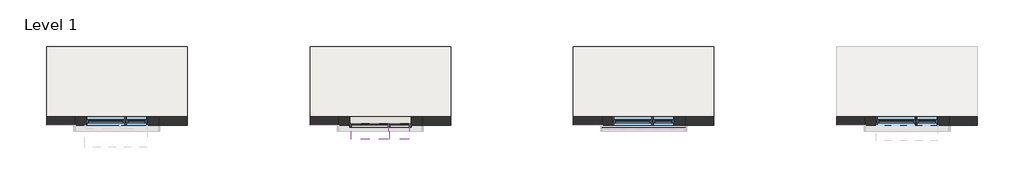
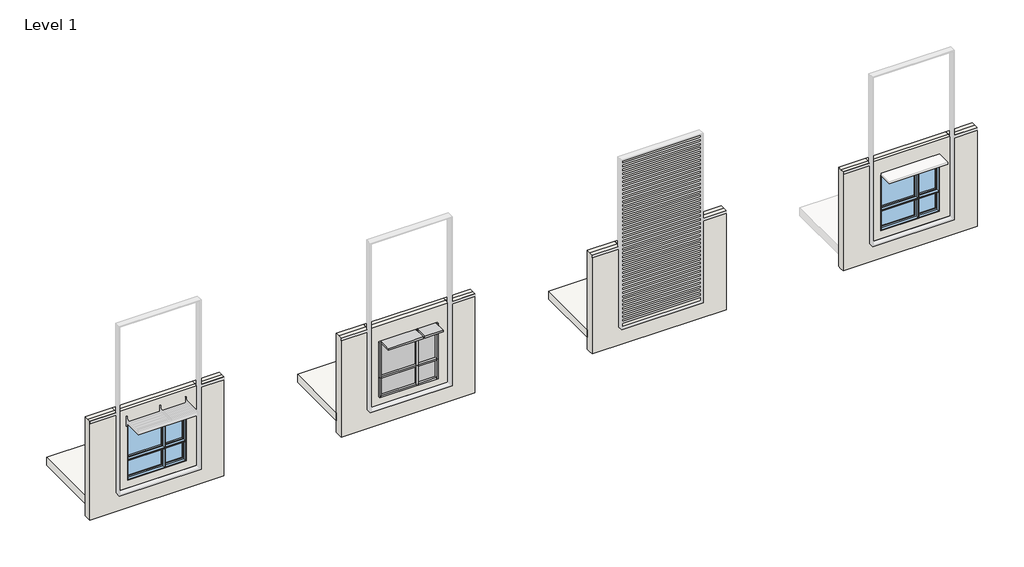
# One storey, part 1 of 2: 12 members, 12 windows, 9 walls, 4 plates, 3 slabs.
"""IFC4 building model written with IfcOpenShell, lengths in millimetres."""

from ifc_helpers import new_model, si_unit, origin, origin_with_axes, place, context, project, spatial, polyline, outline, extrude, faceted_brep, transform, mapped, element, save
from components import member_cba00588, member_61742b2b, member_58fbc06e, member_2ee2964b, member_c33c434a, member_824a4a8d, member_c6627131, member_aa870034, rectangular_mullion_shade_037705a8, rectangular_mullion_shade_51ff6f6d, system_panel_glazed_02edb99e, system_panel_glazed_afa25fb8, system_panel_glazed_763bfc57, system_panel_glazed_5b4b0124, plank_window_awning_4626_d54cf950, plank_window_casement_2646_fc72efb1, plank_window_fixed_2626_f09a5b78, plank_window_fixed_4646_613d52dc

model = new_model("IFC4")

# Units and contexts
model_context = context("Model", 3, world=origin())
ifc_project = project(units=[si_unit("LENGTHUNIT", "METRE", prefix="MILLI")], contexts=[model_context])

# Site, building, storey
site = spatial("IfcSite", under=ifc_project)
building = spatial("IfcBuilding", under=site)
storey = spatial("IfcBuildingStorey", under=building, Name="Level 1", Elevation=0.0)

# Members
placement = place(None, origin())
member_shape = member_cba00588(model_context)
element("IfcMember", 1, ObjectType="Rectangular Mullion : 2.5\" x 5\" rectangular", at=placement, inside=storey, context=model_context, shape_type="MappedRepresentation", body=[
    mapped(member_shape, transform((-19150.1064955, 2683.5864771, 304.8), x_axis=(0.0, 0.0, -1.0), y_axis=(0.0, -1.0, 0.0), z_axis=(-1.0, 0.0, 0.0))),
])
member_2_shape = member_61742b2b(model_context)
element("IfcMember", 2, ObjectType="Rectangular Mullion : 2.5\" x 5\" rectangular", at=placement, inside=storey, context=model_context, shape_type="MappedRepresentation", body=[
    mapped(member_2_shape, transform((-17842.0064955, 2683.5864771, 304.8), x_axis=(1.0, 0.0, 0.0), y_axis=(0.0, -1.0, 0.0), z_axis=(0.0, 0.0, -1.0))),
])
member_3_shape = member_58fbc06e(model_context)
element("IfcMember", 3, ObjectType="Rectangular Mullion : 2.5\" x 5\" rectangular", at=placement, inside=storey, context=model_context, shape_type="MappedRepresentation", body=[
    mapped(member_3_shape, transform((-17873.7564955, 2683.5864771, 1066.8), x_axis=(0.0, 0.0, 1.0), y_axis=(0.0, -1.0, 0.0), z_axis=(1.0, 0.0, 0.0))),
])
member_4_shape = member_2ee2964b(model_context)
element("IfcMember", 4, ObjectType="Rectangular Mullion : 2.5\" x 5\" rectangular", at=placement, inside=storey, context=model_context, shape_type="MappedRepresentation", body=[
    mapped(member_4_shape, transform((-17143.5064955, 2683.5864771, 1066.8), x_axis=(0.0, 0.0, 1.0), y_axis=(0.0, -1.0, 0.0), z_axis=(1.0, 0.0, 0.0))),
])
member_5_shape = member_c33c434a(model_context)
element("IfcMember", 5, ObjectType="Rectangular Mullion : 2.5\" x 5\" rectangular", at=placement, inside=storey, context=model_context, shape_type="MappedRepresentation", body=[
    mapped(member_5_shape, transform((-17810.2564955, 2683.5864771, 304.8), x_axis=(0.0, 0.0, -1.0), y_axis=(0.0, -1.0, 0.0), z_axis=(-1.0, 0.0, 0.0))),
])
member_6_shape = member_824a4a8d(model_context)
element("IfcMember", 6, ObjectType="Rectangular Mullion : 2.5\" x 5\" rectangular", at=placement, inside=storey, context=model_context, shape_type="MappedRepresentation", body=[
    mapped(member_6_shape, transform((-17842.0064955, 2683.5864771, 1066.8), x_axis=(1.0, 0.0, 0.0), y_axis=(0.0, -1.0, 0.0), z_axis=(0.0, 0.0, -1.0))),
])
member_7_shape = member_c6627131(model_context)
element("IfcMember", 7, ObjectType="Rectangular Mullion : 2.5\" x 5\" rectangular", at=placement, inside=storey, context=model_context, shape_type="MappedRepresentation", body=[
    mapped(member_7_shape, transform((-19213.6064955, 2683.5864771, 2438.4), x_axis=(-1.0, 0.0, 0.0), y_axis=(0.0, -1.0, 0.0), z_axis=(0.0, 0.0, 1.0))),
])
member_8_shape = member_aa870034(model_context)
element("IfcMember", 8, ObjectType="Rectangular Mullion : 2.5\" x 5\" rectangular", at=placement, inside=storey, context=model_context, shape_type="MappedRepresentation", body=[
    mapped(member_8_shape, transform((-17080.0064955, 2683.5864771, 304.8), x_axis=(1.0, 0.0, 0.0), y_axis=(0.0, -1.0, 0.0), z_axis=(0.0, 0.0, -1.0))),
])
element("IfcMember", 9, ObjectType="Rectangular Mullion : 2.5\" x 5\" rectangular", at=placement, inside=storey, context=model_context, shape_type="MappedRepresentation", body=[
    mapped(member_7_shape, transform((-17080.0064955, 2683.5864771, 1066.8), x_axis=(1.0, 0.0, 0.0), y_axis=(0.0, -1.0, 0.0), z_axis=(0.0, 0.0, -1.0))),
])
element("IfcMember", 10, ObjectType="Rectangular Mullion : 2.5\" x 5\" rectangular", at=placement, inside=storey, context=model_context, shape_type="MappedRepresentation", body=[
    mapped(member_8_shape, transform((-19213.6064955, 2683.5864771, 1066.8), x_axis=(-1.0, 0.0, 0.0), y_axis=(0.0, -1.0, 0.0), z_axis=(0.0, 0.0, 1.0))),
])
rectangular_mullion_shade_shape = rectangular_mullion_shade_037705a8(model_context)
element("IfcMember", 11, ObjectType="Rectangular Mullion : Shade", at=placement, inside=storey, context=model_context, shape_type="MappedRepresentation", body=[
    mapped(rectangular_mullion_shade_shape, transform((-17873.7564955, 2683.5864771, 2438.4), x_axis=(0.0, 0.0, 1.0), y_axis=(0.0, -1.0, 0.0), z_axis=(1.0, 0.0, 0.0))),
])
rectangular_mullion_shade_2_shape = rectangular_mullion_shade_51ff6f6d(model_context)
element("IfcMember", 12, ObjectType="Rectangular Mullion : Shade", at=placement, inside=storey, context=model_context, shape_type="MappedRepresentation", body=[
    mapped(rectangular_mullion_shade_2_shape, transform((-17143.5064955, 2683.5864771, 2438.4), x_axis=(0.0, 0.0, 1.0), y_axis=(0.0, -1.0, 0.0), z_axis=(1.0, 0.0, 0.0))),
])

# Plates
system_panel_glazed_shape = system_panel_glazed_02edb99e(model_context)
element("IfcPlate", 13, ObjectType="System Panel : Glazed", at=placement, inside=storey, context=model_context, shape_type="MappedRepresentation", body=[
    mapped(system_panel_glazed_shape, transform((-18511.9314955, 2683.5864771, 368.3), x_axis=(1.0, 0.0, 0.0), y_axis=(0.0, 1.0, 0.0), z_axis=(0.0, 0.0, 1.0))),
])
system_panel_glazed_2_shape = system_panel_glazed_afa25fb8(model_context)
element("IfcPlate", 14, ObjectType="System Panel : Glazed", at=placement, inside=storey, context=model_context, shape_type="MappedRepresentation", body=[
    mapped(system_panel_glazed_2_shape, transform((-17476.8814955, 2683.5864771, 368.3), x_axis=(1.0, 0.0, 0.0), y_axis=(0.0, 1.0, 0.0), z_axis=(0.0, 0.0, 1.0))),
])
system_panel_glazed_3_shape = system_panel_glazed_763bfc57(model_context)
element("IfcPlate", 15, ObjectType="System Panel : Glazed", at=placement, inside=storey, context=model_context, shape_type="MappedRepresentation", body=[
    mapped(system_panel_glazed_3_shape, transform((-17476.8814955, 2683.5864771, 1098.55), x_axis=(1.0, 0.0, 0.0), y_axis=(0.0, 1.0, 0.0), z_axis=(0.0, 0.0, 1.0))),
])
system_panel_glazed_4_shape = system_panel_glazed_5b4b0124(model_context)
element("IfcPlate", 16, ObjectType="System Panel : Glazed", at=placement, inside=storey, context=model_context, shape_type="MappedRepresentation", body=[
    mapped(system_panel_glazed_4_shape, transform((-18511.9314955, 2683.5864771, 1098.55), x_axis=(1.0, 0.0, 0.0), y_axis=(0.0, 1.0, 0.0), z_axis=(0.0, 0.0, 1.0))),
])

# Slabs
element("IfcSlab", 17, ObjectType="Generic - 12\"", at=placement, inside=storey, context=model_context, shape_type="Brep", body=[
    faceted_brep([(-6564.4064955, 2980.4489771, -304.8), (-11441.2064955, 2980.4489771, -304.8), (-11441.2064955, 5418.8489771, -304.8), (-6564.4064955, 5418.8489771, -304.8), (-6564.4064955, 2980.4489771, 0.0), (-6564.4064955, 5418.8489771, 0.0), (-11441.2064955, 5418.8489771, 0.0), (-11441.2064955, 2980.4489771, 0.0), (-10450.6064955, 2980.4489771, 0.0), (-7542.3064955, 2980.4489771, 0.0)], [[[0, 1, 2, 3]], [[4, 5, 6, 7, 8, 9]], [[1, 0, 4, 9, 8, 7]], [[2, 1, 7, 6]], [[3, 2, 6, 5]], [[0, 3, 5, 4]]]),
])
element("IfcSlab", 18, ObjectType="Generic - 12\"", at=placement, inside=storey, context=model_context, shape_type="Brep", body=[
    faceted_brep([(-15708.4064955, 2980.4489771, -304.8), (-20585.2064955, 2980.4489771, -304.8), (-20585.2064955, 5418.8489771, -304.8), (-15708.4064955, 5418.8489771, -304.8), (-15708.4064955, 2980.4489771, 0.0), (-15708.4064955, 5418.8489771, 0.0), (-20585.2064955, 5418.8489771, 0.0), (-20585.2064955, 2980.4489771, 0.0), (-19594.6064955, 2980.4489771, 0.0), (-16686.3064955, 2980.4489771, 0.0)], [[[0, 1, 2, 3]], [[4, 5, 6, 7, 8, 9]], [[1, 0, 4, 9, 8, 7]], [[2, 1, 7, 6]], [[3, 2, 6, 5]], [[0, 3, 5, 4]]]),
])
element("IfcSlab", 19, ObjectType="Generic - 12\"", at=placement, inside=storey, context=model_context, shape_type="Brep", body=[
    faceted_brep([(-24852.4064955, 2980.4489771, -304.8), (-29729.2064955, 2980.4489771, -304.8), (-29729.2064955, 5418.8489771, -304.8), (-24852.4064955, 5418.8489771, -304.8), (-24852.4064955, 2980.4489771, 0.0), (-24852.4064955, 5418.8489771, 0.0), (-29729.2064955, 5418.8489771, 0.0), (-29729.2064955, 2980.4489771, 0.0), (-28738.6064955, 2980.4489771, 0.0), (-25830.3064955, 2980.4489771, 0.0)], [[[0, 1, 2, 3]], [[4, 5, 6, 7, 8, 9]], [[1, 0, 4, 9, 8, 7]], [[2, 1, 7, 6]], [[3, 2, 6, 5]], [[0, 3, 5, 4]]]),
])

# Walls
element("IfcWall", 20, ObjectType="EXT-SIDE.STUD-5.5\" 4\" RIGID - METAL Horizontal", at=placement, inside=storey, context=model_context, shape_type="Brep", body=[
    faceted_brep([(1601.6935045, 2683.5864771, 0.0), (1601.6935045, 2683.5864771, 3048.0), (-1306.6064955, 2683.5864771, 3048.0), (-1306.6064955, 2683.5864771, 0.0), (-925.6064955, 2683.5864771, 304.8), (-925.6064955, 2683.5864771, 2438.4), (1207.9935045, 2683.5864771, 2438.4), (1207.9935045, 2683.5864771, 304.8), (1601.6935045, 2980.4489771, 0.0), (-1306.6064955, 2980.4489771, 0.0), (-1306.6064955, 2980.4489771, 3048.0), (1601.6935045, 2980.4489771, 3048.0), (1207.9935045, 2980.4489771, 304.8), (1207.9935045, 2980.4489771, 2438.4), (-925.6064955, 2980.4489771, 2438.4), (-925.6064955, 2980.4489771, 304.8), (1601.6935045, 2828.0489771, 0.0), (1601.6935045, 2828.0489771, 3048.0), (-1306.6064955, 2828.0489771, 3048.0), (-1306.6064955, 2828.0489771, 0.0)], [[[0, 1, 2, 3], [4, 5, 6, 7]], [[8, 9, 10, 11], [12, 13, 14, 15]], [[1, 0, 16, 8, 11, 17]], [[3, 2, 18, 10, 9, 19]], [[9, 8, 16, 19]], [[11, 10, 18, 17]], [[2, 1, 17, 18]], [[0, 3, 19, 16]], [[7, 12, 15, 4]], [[12, 7, 6, 13]], [[13, 6, 5, 14]], [[4, 15, 14, 5]]]),
])
element("IfcWall", 21, ObjectType="EXT-SIDE.STUD-5.5\" 4\" RIGID - DRYVIT", at=placement, inside=storey, context=model_context, shape_type="Brep", body=[
    faceted_brep([(2579.5935045, 2683.5864771, -762.0), (2579.5935045, 2683.5864771, 3048.0), (1601.6935045, 2683.5864771, 3048.0), (1601.6935045, 2683.5864771, 0.0), (-1306.6064955, 2683.5864771, 0.0), (-1306.6064955, 2683.5864771, 3048.0), (-2297.2064955, 2683.5864771, 3048.0), (-2297.2064955, 2683.5864771, -762.0), (2579.5935045, 2980.4489771, -762.0), (-2297.2064955, 2980.4489771, -762.0), (-2297.2064955, 2980.4489771, -304.8), (-2297.2064955, 2980.4489771, 0.0), (-2297.2064955, 2980.4489771, 3048.0), (-1306.6064955, 2980.4489771, 3048.0), (-1306.6064955, 2980.4489771, 0.0), (1601.6935045, 2980.4489771, 0.0), (1601.6935045, 2980.4489771, 3048.0), (2579.5935045, 2980.4489771, 3048.0), (2579.5935045, 2980.4489771, 0.0), (2579.5935045, 2980.4489771, -304.8), (2579.5935045, 2828.0489771, 3048.0), (1601.6935045, 2828.0489771, 3048.0), (-2297.2064955, 2828.0489771, -762.0), (2579.5935045, 2828.0489771, -762.0), (-2297.2064955, 2828.0489771, 3048.0), (1601.6935045, 2828.0489771, 0.0), (-1306.6064955, 2828.0489771, 0.0), (-1306.6064955, 2828.0489771, 3048.0)], [[[0, 1, 2, 3, 4, 5, 6, 7]], [[8, 9, 10, 11, 12, 13, 14, 15, 16, 17, 18, 19]], [[2, 1, 20, 21]], [[0, 7, 22, 23]], [[1, 0, 23, 8, 19, 18, 17, 20]], [[7, 6, 24, 12, 11, 10, 9, 22]], [[17, 16, 21, 20]], [[9, 8, 23, 22]], [[3, 2, 21, 16, 15, 25]], [[5, 4, 26, 14, 13, 27]], [[15, 14, 26, 25]], [[4, 3, 25, 26]], [[13, 12, 24, 27]], [[6, 5, 27, 24]]]),
])
element("IfcWall", 22, ObjectType="EXT-SIDE.STUD-5.5\" 4\" RIGID - METAL Horizontal", at=placement, inside=storey, context=model_context, shape_type="Brep", body=[
    faceted_brep([(-7542.3064955, 2683.5864771, 0.0), (-7542.3064955, 2683.5864771, 3048.0), (-10450.6064955, 2683.5864771, 3048.0), (-10450.6064955, 2683.5864771, 0.0), (-10069.6064955, 2683.5864771, 304.8), (-10069.6064955, 2683.5864771, 2438.4), (-7936.0064955, 2683.5864771, 2438.4), (-7936.0064955, 2683.5864771, 304.8), (-7542.3064955, 2980.4489771, 0.0), (-10450.6064955, 2980.4489771, 0.0), (-10450.6064955, 2980.4489771, 3048.0), (-7542.3064955, 2980.4489771, 3048.0), (-7936.0064955, 2980.4489771, 304.8), (-7936.0064955, 2980.4489771, 2438.4), (-10069.6064955, 2980.4489771, 2438.4), (-10069.6064955, 2980.4489771, 304.8), (-7542.3064955, 2828.0489771, 0.0), (-7542.3064955, 2828.0489771, 3048.0), (-10450.6064955, 2828.0489771, 3048.0), (-10450.6064955, 2828.0489771, 0.0)], [[[0, 1, 2, 3], [4, 5, 6, 7]], [[8, 9, 10, 11], [12, 13, 14, 15]], [[1, 0, 16, 8, 11, 17]], [[3, 2, 18, 10, 9, 19]], [[9, 8, 16, 19]], [[11, 10, 18, 17]], [[2, 1, 17, 18]], [[0, 3, 19, 16]], [[7, 12, 15, 4]], [[12, 7, 6, 13]], [[13, 6, 5, 14]], [[4, 15, 14, 5]]]),
])
element("IfcWall", 23, ObjectType="EXT-SIDE.STUD-5.5\" 4\" RIGID - DRYVIT", at=placement, inside=storey, context=model_context, shape_type="Brep", body=[
    faceted_brep([(-6564.4064955, 2683.5864771, -762.0), (-6564.4064955, 2683.5864771, 3048.0), (-7542.3064955, 2683.5864771, 3048.0), (-7542.3064955, 2683.5864771, 0.0), (-10450.6064955, 2683.5864771, 0.0), (-10450.6064955, 2683.5864771, 3048.0), (-11441.2064955, 2683.5864771, 3048.0), (-11441.2064955, 2683.5864771, -762.0), (-6564.4064955, 2980.4489771, -762.0), (-11441.2064955, 2980.4489771, -762.0), (-11441.2064955, 2980.4489771, -304.8), (-11441.2064955, 2980.4489771, 0.0), (-11441.2064955, 2980.4489771, 3048.0), (-10450.6064955, 2980.4489771, 3048.0), (-10450.6064955, 2980.4489771, 0.0), (-7542.3064955, 2980.4489771, 0.0), (-7542.3064955, 2980.4489771, 3048.0), (-6564.4064955, 2980.4489771, 3048.0), (-6564.4064955, 2980.4489771, 0.0), (-6564.4064955, 2980.4489771, -304.8), (-6564.4064955, 2828.0489771, 3048.0), (-7542.3064955, 2828.0489771, 3048.0), (-11441.2064955, 2828.0489771, -762.0), (-6564.4064955, 2828.0489771, -762.0), (-11441.2064955, 2828.0489771, 3048.0), (-7542.3064955, 2828.0489771, 0.0), (-10450.6064955, 2828.0489771, 0.0), (-10450.6064955, 2828.0489771, 3048.0)], [[[0, 1, 2, 3, 4, 5, 6, 7]], [[8, 9, 10, 11, 12, 13, 14, 15, 16, 17, 18, 19]], [[2, 1, 20, 21]], [[0, 7, 22, 23]], [[1, 0, 23, 8, 19, 18, 17, 20]], [[7, 6, 24, 12, 11, 10, 9, 22]], [[17, 16, 21, 20]], [[9, 8, 23, 22]], [[3, 2, 21, 16, 15, 25]], [[5, 4, 26, 14, 13, 27]], [[15, 14, 26, 25]], [[4, 3, 25, 26]], [[13, 12, 24, 27]], [[6, 5, 27, 24]]]),
])
element("IfcWall", 24, ObjectType="EXT-SIDE.STUD-5.5\" 4\" RIGID - METAL Horizontal", at=placement, inside=storey, context=model_context, shape_type="Brep", body=[
    faceted_brep([(-19594.6064955, 2683.5864771, 0.0), (-16686.3064955, 2683.5864771, 0.0), (-16686.3064955, 2683.5864771, 3048.0), (-19594.6064955, 2683.5864771, 3048.0), (-17080.0064955, 2683.5864771, 2438.4), (-17080.0064955, 2683.5864771, 304.8), (-19213.6064955, 2683.5864771, 304.8), (-19213.6064955, 2683.5864771, 2438.4), (-19594.6064955, 2980.4489771, 0.0), (-19594.6064955, 2980.4489771, 3048.0), (-16686.3064955, 2980.4489771, 3048.0), (-16686.3064955, 2980.4489771, 0.0), (-17080.0064955, 2980.4489771, 2438.4), (-19213.6064955, 2980.4489771, 2438.4), (-19213.6064955, 2980.4489771, 304.8), (-17080.0064955, 2980.4489771, 304.8), (-16686.3064955, 2828.0489771, 3048.0), (-19594.6064955, 2828.0489771, 3048.0), (-19594.6064955, 2828.0489771, 0.0), (-16686.3064955, 2828.0489771, 0.0)], [[[0, 1, 2, 3], [4, 5, 6, 7]], [[8, 9, 10, 11], [12, 13, 14, 15]], [[3, 2, 16, 17]], [[1, 0, 18, 19]], [[2, 1, 19, 11, 10, 16]], [[0, 3, 17, 9, 8, 18]], [[16, 10, 9, 17]], [[18, 8, 11, 19]], [[5, 4, 12, 15]], [[6, 5, 15, 14]], [[7, 6, 14, 13]], [[4, 7, 13, 12]]]),
])
element("IfcWall", 25, ObjectType="EXT-SIDE.STUD-5.5\" 4\" RIGID - DRYVIT", at=placement, inside=storey, context=model_context, shape_type="Brep", body=[
    faceted_brep([(-15708.4064955, 2683.5864771, -762.0), (-15708.4064955, 2683.5864771, 3048.0), (-16686.3064955, 2683.5864771, 3048.0), (-16686.3064955, 2683.5864771, 0.0), (-19594.6064955, 2683.5864771, 0.0), (-19594.6064955, 2683.5864771, 3048.0), (-20585.2064955, 2683.5864771, 3048.0), (-20585.2064955, 2683.5864771, -762.0), (-15708.4064955, 2980.4489771, -762.0), (-20585.2064955, 2980.4489771, -762.0), (-20585.2064955, 2980.4489771, -304.8), (-20585.2064955, 2980.4489771, 0.0), (-20585.2064955, 2980.4489771, 3048.0), (-19594.6064955, 2980.4489771, 3048.0), (-19594.6064955, 2980.4489771, 0.0), (-16686.3064955, 2980.4489771, 0.0), (-16686.3064955, 2980.4489771, 3048.0), (-15708.4064955, 2980.4489771, 3048.0), (-15708.4064955, 2980.4489771, 0.0), (-15708.4064955, 2980.4489771, -304.8), (-15708.4064955, 2828.0489771, 3048.0), (-16686.3064955, 2828.0489771, 3048.0), (-20585.2064955, 2828.0489771, -762.0), (-15708.4064955, 2828.0489771, -762.0), (-20585.2064955, 2828.0489771, 3048.0), (-16686.3064955, 2828.0489771, 0.0), (-19594.6064955, 2828.0489771, 0.0), (-19594.6064955, 2828.0489771, 3048.0)], [[[0, 1, 2, 3, 4, 5, 6, 7]], [[8, 9, 10, 11, 12, 13, 14, 15, 16, 17, 18, 19]], [[2, 1, 20, 21]], [[0, 7, 22, 23]], [[1, 0, 23, 8, 19, 18, 17, 20]], [[7, 6, 24, 12, 11, 10, 9, 22]], [[17, 16, 21, 20]], [[9, 8, 23, 22]], [[3, 2, 21, 16, 15, 25]], [[5, 4, 26, 14, 13, 27]], [[15, 14, 26, 25]], [[4, 3, 25, 26]], [[13, 12, 24, 27]], [[6, 5, 27, 24]]]),
])
element("IfcWall", 26, ObjectType="EXT-SIDE.STUD-5.5\" 4\" RIGID - METAL Horizontal", at=placement, inside=storey, context=model_context, shape_type="Brep", body=[
    faceted_brep([(-25830.3064955, 2683.5864771, 0.0), (-25830.3064955, 2683.5864771, 3048.0), (-28738.6064955, 2683.5864771, 3048.0), (-28738.6064955, 2683.5864771, 0.0), (-28357.6064955, 2683.5864771, 304.8), (-28357.6064955, 2683.5864771, 2438.4), (-26224.0064955, 2683.5864771, 2438.4), (-26224.0064955, 2683.5864771, 304.8), (-25830.3064955, 2980.4489771, 0.0), (-28738.6064955, 2980.4489771, 0.0), (-28738.6064955, 2980.4489771, 3048.0), (-25830.3064955, 2980.4489771, 3048.0), (-26224.0064955, 2980.4489771, 304.8), (-26224.0064955, 2980.4489771, 2438.4), (-28357.6064955, 2980.4489771, 2438.4), (-28357.6064955, 2980.4489771, 304.8), (-25830.3064955, 2828.0489771, 0.0), (-25830.3064955, 2828.0489771, 3048.0), (-28738.6064955, 2828.0489771, 3048.0), (-28738.6064955, 2828.0489771, 0.0)], [[[0, 1, 2, 3], [4, 5, 6, 7]], [[8, 9, 10, 11], [12, 13, 14, 15]], [[1, 0, 16, 8, 11, 17]], [[3, 2, 18, 10, 9, 19]], [[9, 8, 16, 19]], [[11, 10, 18, 17]], [[2, 1, 17, 18]], [[0, 3, 19, 16]], [[7, 12, 15, 4]], [[12, 7, 6, 13]], [[13, 6, 5, 14]], [[4, 15, 14, 5]]]),
])
element("IfcWall", 27, ObjectType="EXT-SIDE.STUD-5.5\" 4\" RIGID - DRYVIT", at=placement, inside=storey, context=model_context, shape_type="Brep", body=[
    faceted_brep([(-24852.4064955, 2683.5864771, -762.0), (-24852.4064955, 2683.5864771, 3048.0), (-25830.3064955, 2683.5864771, 3048.0), (-25830.3064955, 2683.5864771, 0.0), (-28738.6064955, 2683.5864771, 0.0), (-28738.6064955, 2683.5864771, 3048.0), (-29729.2064955, 2683.5864771, 3048.0), (-29729.2064955, 2683.5864771, -762.0), (-24852.4064955, 2980.4489771, -762.0), (-29729.2064955, 2980.4489771, -762.0), (-29729.2064955, 2980.4489771, -304.8), (-29729.2064955, 2980.4489771, 0.0), (-29729.2064955, 2980.4489771, 3048.0), (-28738.6064955, 2980.4489771, 3048.0), (-28738.6064955, 2980.4489771, 0.0), (-25830.3064955, 2980.4489771, 0.0), (-25830.3064955, 2980.4489771, 3048.0), (-24852.4064955, 2980.4489771, 3048.0), (-24852.4064955, 2980.4489771, 0.0), (-24852.4064955, 2980.4489771, -304.8), (-24852.4064955, 2828.0489771, 3048.0), (-25830.3064955, 2828.0489771, 3048.0), (-29729.2064955, 2828.0489771, -762.0), (-24852.4064955, 2828.0489771, -762.0), (-29729.2064955, 2828.0489771, 3048.0), (-25830.3064955, 2828.0489771, 0.0), (-28738.6064955, 2828.0489771, 0.0), (-28738.6064955, 2828.0489771, 3048.0)], [[[0, 1, 2, 3, 4, 5, 6, 7]], [[8, 9, 10, 11, 12, 13, 14, 15, 16, 17, 18, 19]], [[2, 1, 20, 21]], [[0, 7, 22, 23]], [[1, 0, 23, 8, 19, 18, 17, 20]], [[7, 6, 24, 12, 11, 10, 9, 22]], [[17, 16, 21, 20]], [[9, 8, 23, 22]], [[3, 2, 21, 16, 15, 25]], [[5, 4, 26, 14, 13, 27]], [[15, 14, 26, 25]], [[4, 3, 25, 26]], [[13, 12, 24, 27]], [[6, 5, 27, 24]]]),
])
element("IfcWall", 28, ObjectType="Generic - 1\"", at=placement, inside=storey, context=model_context, shape_type="SweptSolid", body=[
    extrude(outline(polyline([(-7555.0064955, 2575.6364771), (-10450.6064955, 2575.6364771), (-10450.6064955, 2601.0364771), (-7555.0064955, 2601.0364771), (-7555.0064955, 2575.6364771)])), origin_with_axes(), (0.0, 0.0, 1.0), 6445.25),
])

# Windows
plank_window_awning_4626_shape = plank_window_awning_4626_d54cf950(model_context)
element("IfcWindow", 29, ObjectType="Plank Window : Awning 4626", at=placement, inside=storey, context=model_context, shape_type="MappedRepresentation", body=[
    mapped(plank_window_awning_4626_shape, transform((-239.8064955, 2832.0177271, -609.6), x_axis=(-1.0, 0.0, 0.0), y_axis=(0.0, -1.0, 0.0), z_axis=(0.0, 0.0, 1.0))),
])
element("IfcWindow", 30, ObjectType="Plank Window : Awning 4626", at=placement, inside=storey, context=model_context, shape_type="MappedRepresentation", body=[
    mapped(plank_window_awning_4626_shape, transform((-9383.8064955, 2832.0177271, -609.6), x_axis=(-1.0, 0.0, 0.0), y_axis=(0.0, -1.0, 0.0), z_axis=(0.0, 0.0, 1.0))),
])
element("IfcWindow", 31, ObjectType="Plank Window : Awning 4626", at=placement, inside=storey, context=model_context, shape_type="MappedRepresentation", body=[
    mapped(plank_window_awning_4626_shape, transform((-27671.8064955, 2832.0177271, -609.6), x_axis=(-1.0, 0.0, 0.0), y_axis=(0.0, -1.0, 0.0), z_axis=(0.0, 0.0, 1.0))),
])
plank_window_casement_2646_shape = plank_window_casement_2646_fc72efb1(model_context)
element("IfcWindow", 32, ObjectType="Plank Window : Casement 2646", at=placement, inside=storey, context=model_context, shape_type="MappedRepresentation", body=[
    mapped(plank_window_casement_2646_shape, transform((826.9935045, 2832.0177271, 152.4), x_axis=(-1.0, 0.0, 0.0), y_axis=(0.0, -1.0, 0.0), z_axis=(0.0, 0.0, 1.0))),
])
element("IfcWindow", 33, ObjectType="Plank Window : Casement 2646", at=placement, inside=storey, context=model_context, shape_type="MappedRepresentation", body=[
    mapped(plank_window_casement_2646_shape, transform((-8317.0064955, 2832.0177271, 152.4), x_axis=(-1.0, 0.0, 0.0), y_axis=(0.0, -1.0, 0.0), z_axis=(0.0, 0.0, 1.0))),
])
element("IfcWindow", 34, ObjectType="Plank Window : Casement 2646", at=placement, inside=storey, context=model_context, shape_type="MappedRepresentation", body=[
    mapped(plank_window_casement_2646_shape, transform((-26605.0064955, 2832.0177271, 152.4), x_axis=(-1.0, 0.0, 0.0), y_axis=(0.0, -1.0, 0.0), z_axis=(0.0, 0.0, 1.0))),
])
plank_window_fixed_2626_shape = plank_window_fixed_2626_f09a5b78(model_context)
element("IfcWindow", 35, ObjectType="Plank Window : Fixed 2626", at=placement, inside=storey, context=model_context, shape_type="MappedRepresentation", body=[
    mapped(plank_window_fixed_2626_shape, transform((826.9935045, 2832.0177271, -609.6), x_axis=(-1.0, 0.0, 0.0), y_axis=(0.0, -1.0, 0.0), z_axis=(0.0, 0.0, 1.0))),
])
element("IfcWindow", 36, ObjectType="Plank Window : Fixed 2626", at=placement, inside=storey, context=model_context, shape_type="MappedRepresentation", body=[
    mapped(plank_window_fixed_2626_shape, transform((-8317.0064955, 2832.0177271, -609.6), x_axis=(-1.0, 0.0, 0.0), y_axis=(0.0, -1.0, 0.0), z_axis=(0.0, 0.0, 1.0))),
])
element("IfcWindow", 37, ObjectType="Plank Window : Fixed 2626", at=placement, inside=storey, context=model_context, shape_type="MappedRepresentation", body=[
    mapped(plank_window_fixed_2626_shape, transform((-26605.0064955, 2832.0177271, -609.6), x_axis=(-1.0, 0.0, 0.0), y_axis=(0.0, -1.0, 0.0), z_axis=(0.0, 0.0, 1.0))),
])
plank_window_fixed_4646_shape = plank_window_fixed_4646_613d52dc(model_context)
element("IfcWindow", 38, ObjectType="Plank Window : Fixed 4646", at=placement, inside=storey, context=model_context, shape_type="MappedRepresentation", body=[
    mapped(plank_window_fixed_4646_shape, transform((-239.8064955, 2832.0177271, 152.4), x_axis=(-1.0, 0.0, 0.0), y_axis=(0.0, -1.0, 0.0), z_axis=(0.0, 0.0, 1.0))),
])
element("IfcWindow", 39, ObjectType="Plank Window : Fixed 4646", at=placement, inside=storey, context=model_context, shape_type="MappedRepresentation", body=[
    mapped(plank_window_fixed_4646_shape, transform((-9383.8064955, 2832.0177271, 152.4), x_axis=(-1.0, 0.0, 0.0), y_axis=(0.0, -1.0, 0.0), z_axis=(0.0, 0.0, 1.0))),
])
element("IfcWindow", 40, ObjectType="Plank Window : Fixed 4646", at=placement, inside=storey, context=model_context, shape_type="MappedRepresentation", body=[
    mapped(plank_window_fixed_4646_shape, transform((-27671.8064955, 2832.0177271, 152.4), x_axis=(-1.0, 0.0, 0.0), y_axis=(0.0, -1.0, 0.0), z_axis=(0.0, 0.0, 1.0))),
])

save(model, "model.ifc")
